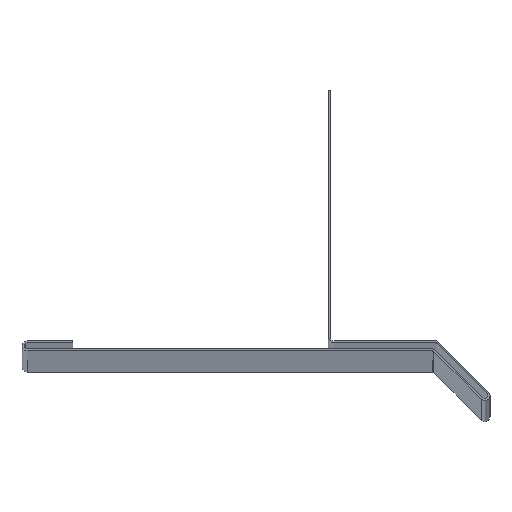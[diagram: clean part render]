
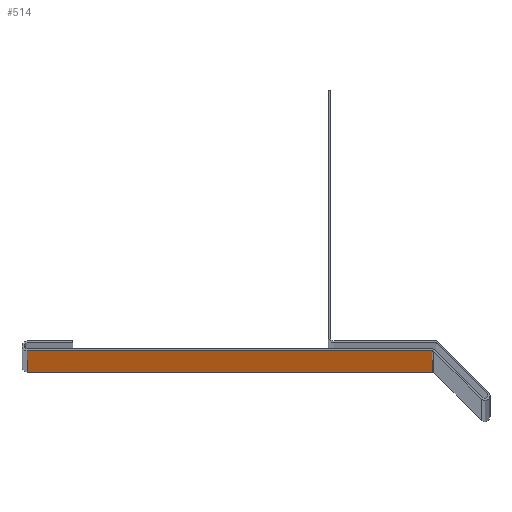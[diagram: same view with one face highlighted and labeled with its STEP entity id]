
A CAD part, top view. The second image highlights one B-rep face of the part: STEP entity #514.
In plain terms, the highlighted planar face has unit normal (0, -1, 0).
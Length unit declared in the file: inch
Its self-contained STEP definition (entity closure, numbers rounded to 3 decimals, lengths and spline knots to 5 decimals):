
#1 = VECTOR ( 'NONE', #369, 39.37008 ) ;
#22 = PLANE ( 'NONE',  #546 ) ;
#42 = ORIENTED_EDGE ( 'NONE', *, *, #394, .T. ) ;
#46 = VECTOR ( 'NONE', #944, 39.37008 ) ;
#87 = DIRECTION ( 'NONE',  ( 0., -1., 0. ) ) ;
#155 = CARTESIAN_POINT ( 'NONE',  ( 1.00936, -0.1, 120. ) ) ;
#331 = DIRECTION ( 'NONE',  ( 0., 0., -1. ) ) ;
#367 = FACE_OUTER_BOUND ( 'NONE', #529, .T. ) ;
#369 = DIRECTION ( 'NONE',  ( -1., 0., 0. ) ) ;
#394 = EDGE_CURVE ( 'NONE', #813, #778, #639, .T. ) ;
#437 = LINE ( 'NONE', #555, #46 ) ;
#440 = EDGE_CURVE ( 'NONE', #1015, #813, #437, .T. ) ;
#479 = ORIENTED_EDGE ( 'NONE', *, *, #440, .T. ) ;
#514 = ADVANCED_FACE ( 'NONE', ( #367 ), #22, .T. ) ;
#529 = EDGE_LOOP ( 'NONE', ( #910, #900, #479, #42 ) ) ;
#546 = AXIS2_PLACEMENT_3D ( 'NONE', #155, #87, #605 ) ;
#555 = CARTESIAN_POINT ( 'NONE',  ( 1.00936, -0.1, 120. ) ) ;
#577 = EDGE_CURVE ( 'NONE', #691, #778, #669, .T. ) ;
#592 = CARTESIAN_POINT ( 'NONE',  ( 1.00936, -0.1, 0. ) ) ;
#605 = DIRECTION ( 'NONE',  ( 1., 0., 0. ) ) ;
#639 = LINE ( 'NONE', #905, #963 ) ;
#663 = DIRECTION ( 'NONE',  ( 0., 0., -1. ) ) ;
#669 = LINE ( 'NONE', #592, #1 ) ;
#691 = VERTEX_POINT ( 'NONE', #1023 ) ;
#707 = CARTESIAN_POINT ( 'NONE',  ( -3., -0.1, 0. ) ) ;
#715 = CARTESIAN_POINT ( 'NONE',  ( 1.00936, -0.1, 120. ) ) ;
#778 = VERTEX_POINT ( 'NONE', #707 ) ;
#809 = CARTESIAN_POINT ( 'NONE',  ( 1.00936, -0.1, 120. ) ) ;
#813 = VERTEX_POINT ( 'NONE', #1000 ) ;
#900 = ORIENTED_EDGE ( 'NONE', *, *, #1031, .F. ) ;
#905 = CARTESIAN_POINT ( 'NONE',  ( -3., -0.1, 120. ) ) ;
#910 = ORIENTED_EDGE ( 'NONE', *, *, #577, .F. ) ;
#912 = VECTOR ( 'NONE', #331, 39.37008 ) ;
#944 = DIRECTION ( 'NONE',  ( -1., 0., 0. ) ) ;
#963 = VECTOR ( 'NONE', #663, 39.37008 ) ;
#964 = LINE ( 'NONE', #715, #912 ) ;
#1000 = CARTESIAN_POINT ( 'NONE',  ( -3., -0.1, 120. ) ) ;
#1015 = VERTEX_POINT ( 'NONE', #809 ) ;
#1023 = CARTESIAN_POINT ( 'NONE',  ( 1.00936, -0.1, 0. ) ) ;
#1031 = EDGE_CURVE ( 'NONE', #1015, #691, #964, .T. ) ;
